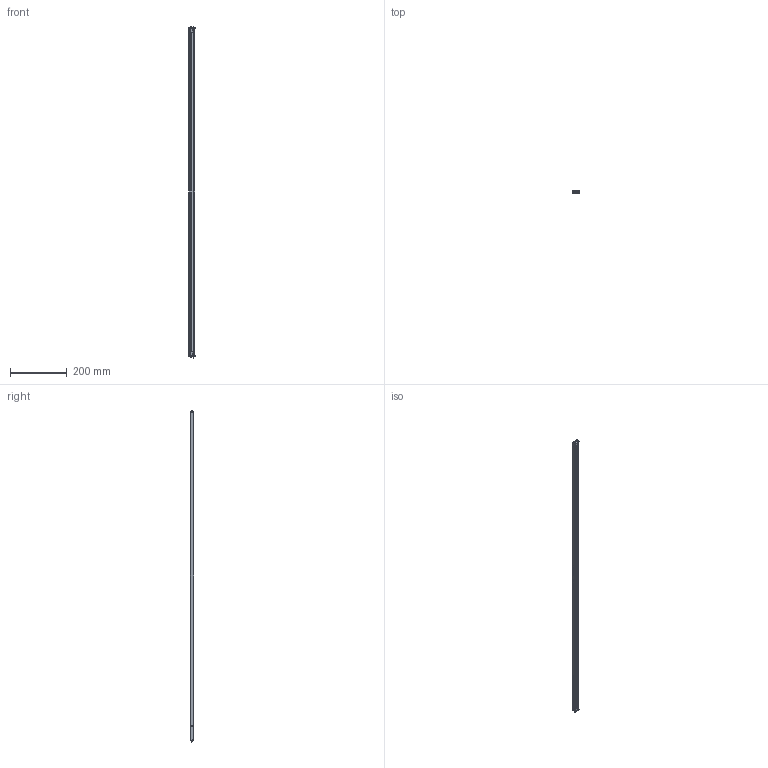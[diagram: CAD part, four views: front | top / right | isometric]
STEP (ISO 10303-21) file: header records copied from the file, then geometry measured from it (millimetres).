
FILE_DESCRIPTION (( 'STEP AP214' ), '1' );
FILE_NAME ('2000493 Kiton EDC 1161 mm.STEP', '2022-11-09T06:57:05', ( '' ), ( '' ), 'SwSTEP 2.0', 'SolidWorks 2021', '' );
FILE_SCHEMA (( 'AUTOMOTIVE_DESIGN' ));
Length unit declared in the file: millimetre
Products named in the file (11): 6201093 Konsole rechts_1161 mm; STRIP REEL 180 LED METRO 5.25mm; sheet metal screws_din_Tapping screw DIN 7049-ST2.2x9.5-C-H-C; VITE TS TORX 2x6; TESTATA_TESTATA SX; SENSORE PROG. PROXIMITY; SUPPORTO TESTATA_SUPPORTO TESTATA SX; 2000493 Kiton EDC 1161 mm; TESTATA_TESTATA DX; 6201094 PROFILO LAMPADA_1161 mm; SUPPORTO TESTATA_SUPPORTO TESTATA DX
Assembly tree (20 placements, depth 2):
  2000493 Kiton EDC 1161 mm
    6201094 PROFILO LAMPADA_1161 mm
    6201093 Konsole rechts_1161 mm
    TESTATA_TESTATA DX
    TESTATA_TESTATA SX
    SUPPORTO TESTATA_SUPPORTO TESTATA DX
    SUPPORTO TESTATA_SUPPORTO TESTATA SX
    SENSORE PROG. PROXIMITY  x2
    STRIP REEL 180 LED METRO 5.25mm  x7
    sheet metal screws_din_Tapping screw DIN 7049-ST2.2x9.5-C-H-C  x4
    VITE TS TORX 2x6
Bounding box: 22.2 x 11.46 x 1174.26 mm (x, y, z)
Volume: 128409.2 mm3; surface area: 180142.9 mm2
Topology: 20 solids, 20 shells, 1637 faces, 4482 edges, 2975 vertices
Faces by surface type: plane 1206, cylinder 317, bspline 83, cone 15, sphere 12, torus 4
Entity records: 40450 total; most frequent: CARTESIAN_POINT 13968, ORIENTED_EDGE 5342, DIRECTION 4299, EDGE_CURVE 2671, VECTOR 2003, LINE 2003, VERTEX_POINT 1774, AXIS2_PLACEMENT_3D 1148
